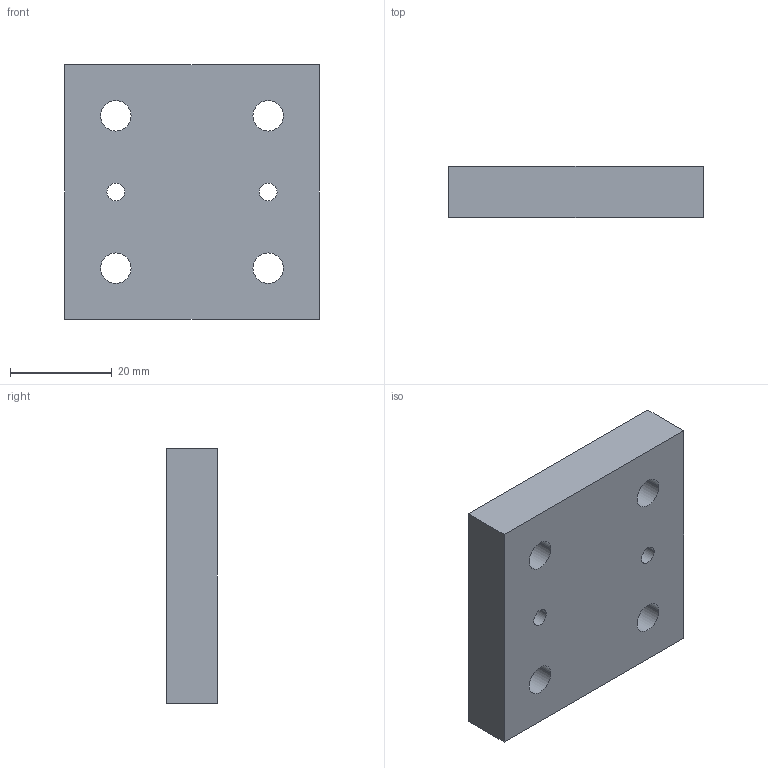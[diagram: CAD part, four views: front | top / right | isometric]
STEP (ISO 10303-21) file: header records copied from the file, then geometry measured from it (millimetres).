
FILE_DESCRIPTION (( 'STEP AP214' ), '1' );
FILE_NAME ('Porta balero.STEP', '2019-05-12T01:54:44', ( '' ), ( '' ), 'SwSTEP 2.0', 'SolidWorks 2018', '' );
FILE_SCHEMA (( 'AUTOMOTIVE_DESIGN' ));
Length unit declared in the file: millimetre
Products named in the file (1): Porta balero
Bounding box: 50 x 10 x 50 mm (x, y, z)
Volume: 21015.7 mm3; surface area: 8193 mm2
Topology: 1 solids, 1 shells, 21 faces, 54 edges, 36 vertices
Faces by surface type: cylinder 14, plane 7
Entity records: 714 total; most frequent: DIRECTION 126, CARTESIAN_POINT 112, ORIENTED_EDGE 108, EDGE_CURVE 54, AXIS2_PLACEMENT_3D 50, VERTEX_POINT 36, EDGE_LOOP 34, CIRCLE 28
